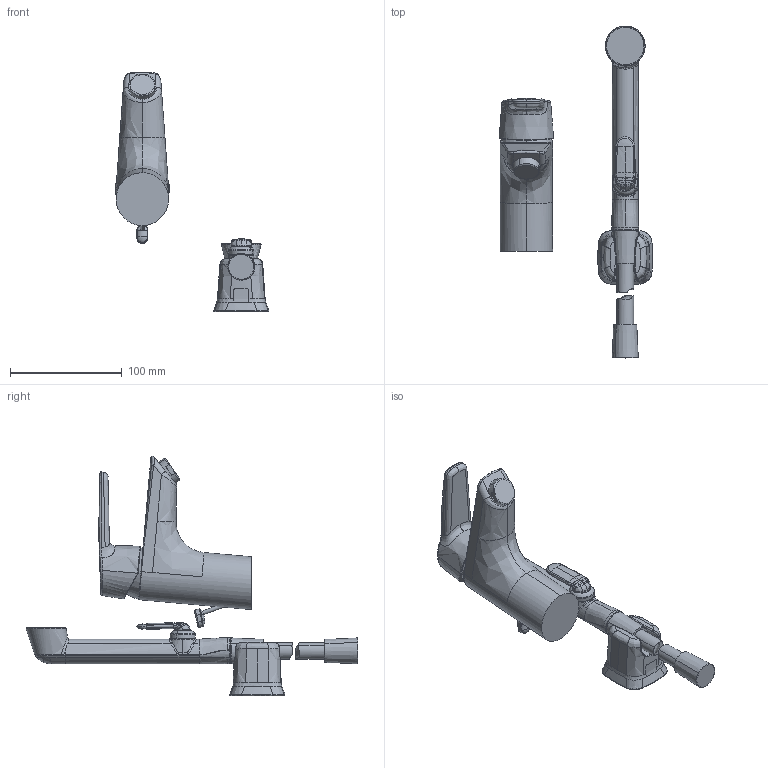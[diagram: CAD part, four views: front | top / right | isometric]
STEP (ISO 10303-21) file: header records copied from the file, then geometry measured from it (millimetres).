
FILE_DESCRIPTION (( 'STEP AP203' ), '1' );
FILE_NAME ('3908F(2023)+51462293(2023).STEP', '2023-09-25T07:07:11', ( '' ), ( '' ), 'SwSTEP 2.0', 'SolidWorks 2016', '' );
FILE_SCHEMA (( 'CONFIG_CONTROL_DESIGN' ));
Products named in the file (1): 3908F(2023)+51462293(2023)
Bounding box: 137.41 x 296.68 x 214.2 mm (x, y, z)
Volume: 524354.4 mm3; surface area: 83069.8 mm2
Topology: 11 solids, 11 shells, 369 faces, 919 edges, 573 vertices
Faces by surface type: bspline 267, cylinder 32, plane 30, cone 26, torus 12, sphere 2
Entity records: 77369 total; most frequent: CARTESIAN_POINT 70772, ORIENTED_EDGE 1834, EDGE_CURVE 917, DIRECTION 691, VERTEX_POINT 573, B_SPLINE_CURVE_WITH_KNOTS 504, EDGE_LOOP 372, ADVANCED_FACE 369
